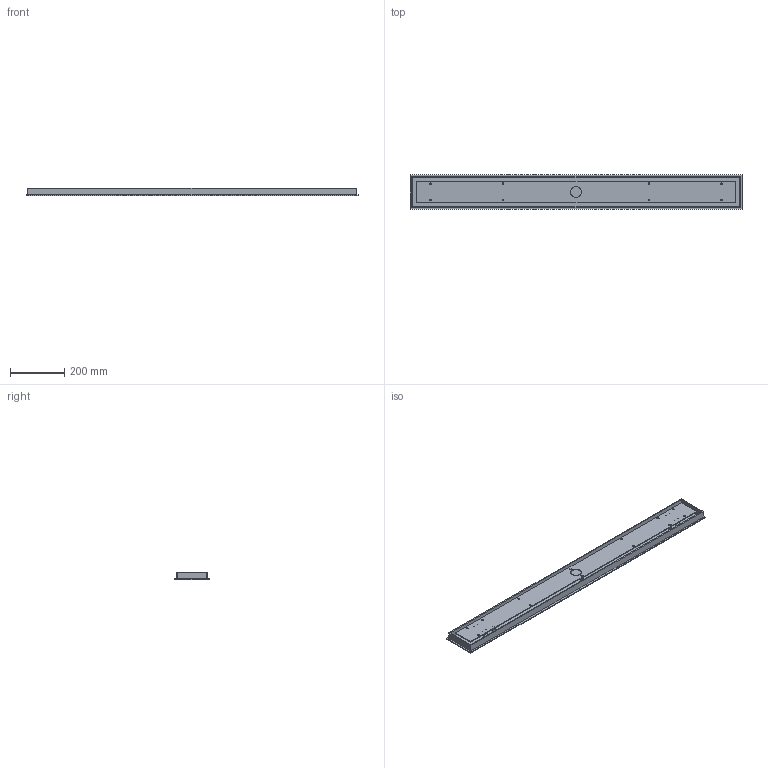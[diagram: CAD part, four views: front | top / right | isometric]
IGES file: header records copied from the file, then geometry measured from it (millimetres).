
Global section: file name: /Users/danielszollosi/Documents/SkLO/DEVELOPMENT/LIGHT 2024/MULTIPENDANT CANOPIES/Linear Multipendant Canopies/SkLO_Linear_Canopy_4'_MCL04/3D/SkLO_Linear_Canopy_4'_MCL04_3D.igs; native system: Rhinoceros ( Sep 24 2023 ); preprocessor: Trout Lake IGES 012 Sep 24 2023; date: 241018.142905; units: millimetre
Bounding box: 1220 x 127 x 28.3 mm (x, y, z)
Surface area: 649881.8 mm2 (no closed solid volume)
Topology: 0 solids, 0 shells, 169 faces, 1050 edges, 976 vertices
Faces by surface type: bspline 169
